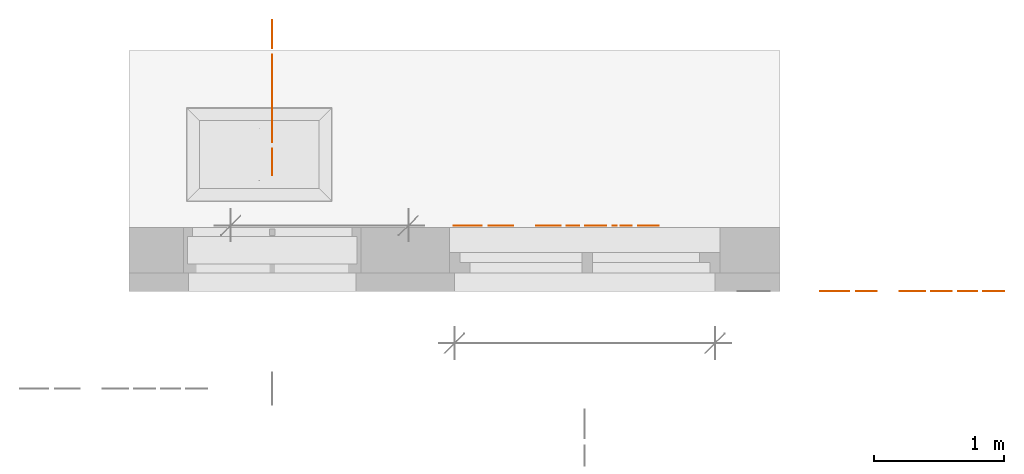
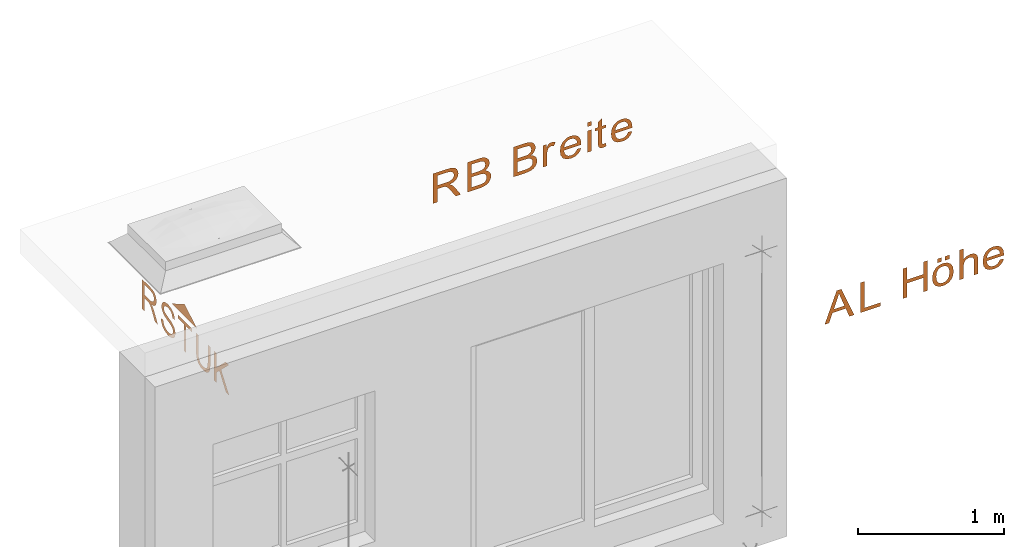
# One storey, part 5 of 5: 3 proxies, 3 elements without a shape of their own.
"""IFC4 building model written with IfcOpenShell, lengths in metres."""

from ifc_helpers import new_model, entity, si_unit, converted_unit, derived_unit, frame, origin, origin_with_axes, place, context, subcontext, project, spatial, open_shell, surface_model, source, transform, mapped, element, aggregate, save


model = new_model("IFC4")

# Units and contexts
model_context = context("Model", 3, precision=1e-05, world=origin())
body_context = subcontext(model_context, "Body", "Model", "MODEL_VIEW")
ifc_project = project(units=[si_unit("LENGTHUNIT", "METRE"), si_unit("AREAUNIT", "SQUARE_METRE"), si_unit("VOLUMEUNIT", "CUBIC_METRE"), si_unit("MASSUNIT", "GRAM", prefix="KILO"), converted_unit("PLANEANGLEUNIT", "DEGREE", entity("IfcPlaneAngleMeasure", 0.0174532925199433), si_unit("PLANEANGLEUNIT", "RADIAN"), dimensions=[0, 0, 0, 0, 0, 0, 0]), derived_unit("THERMALTRANSMITTANCEUNIT", [(si_unit("POWERUNIT", "WATT"), 1), (si_unit("THERMODYNAMICTEMPERATUREUNIT", "KELVIN"), -1), (si_unit("LENGTHUNIT", "METRE"), -2)]), derived_unit("VOLUMETRICFLOWRATEUNIT", [(si_unit("LENGTHUNIT", "METRE"), 3), (converted_unit("TIMEUNIT", "hour", entity("IfcTimeMeasure", 3600.0), si_unit("TIMEUNIT", "SECOND"), dimensions=[0, 0, 1, 0, 0, 0, 0]), -1), (si_unit("LENGTHUNIT", "METRE"), -1)])], contexts=[model_context])

# Site, building, storey
site_placement = place(None, origin())
site = spatial("IfcSite", under=ifc_project, at=site_placement, Name="Liegenschaft", CompositionType="ELEMENT")
building_placement = place(site_placement, origin())
building = spatial("IfcBuilding", under=site, at=building_placement, Name="Gebäude", CompositionType="ELEMENT")
storey_placement = place(building_placement, origin())
storey = spatial("IfcBuildingStorey", under=building, at=storey_placement, Name="Geschoss 01", CompositionType="ELEMENT", Elevation=0.0)

# Assembly, proxy
assembly_1_placement = place(storey_placement, origin())
assembly_1 = element("IfcElementAssembly", 1, at=assembly_1_placement, inside=storey, Name="SpatialDim_Group", PredefinedType="NOTDEFINED")
shared_shape_1 = source(origin_with_axes(), body_context, "Body", "SurfaceModel", [
    surface_model("IfcShellBasedSurfaceModel", [(0.397, 0.6115, 0.0), (0.297, 0.784705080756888, 0.0), (0.297, 0.438294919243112, 0.0)], [open_shell([[[0, 1, 2]]], orient=[[False]])]),
    surface_model("IfcShellBasedSurfaceModel", [(0.00399999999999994, 1.195, 0.0), (0.00399999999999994, 1.162, 0.0), (0.115, 1.162, 0.0), (0.115, 1.124, 0.0), (0.1145, 1.112625, 0.0), (0.114, 1.105, 0.0), (0.110875, 1.0975, 0.0), (0.107, 1.09, 0.0), (0.100875, 1.082375, 0.0), (0.0909999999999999, 1.074, 0.0), (0.0761249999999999, 1.06275, 0.0), (0.0559999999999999, 1.05, 0.0), (0.00399999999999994, 1.017, 0.0), (0.004, 0.976, 0.0), (0.0719999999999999, 1.019, 0.0), (0.0908749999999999, 1.0325, 0.0), (0.106, 1.046, 0.0), (0.112, 1.054875, 0.0), (0.118, 1.066, 0.0), (0.1265, 1.034625, 0.0), (0.141, 1.013, 0.0), (0.16125, 1.0, 0.0), (0.186, 0.996, 0.0), (0.206125, 0.99875, 0.0), (0.224, 1.006, 0.0), (0.2385, 1.018875, 0.0), (0.247, 1.034, 0.0), (0.252375, 1.05575, 0.0), (0.254, 1.085, 0.0), (0.254, 1.195, 0.0), (0.145, 1.071625, 0.0), (0.144, 1.091, 0.0), (0.144, 1.162, 0.0), (0.226, 1.162, 0.0), (0.226, 1.083, 0.0), (0.223125, 1.05925, 0.0), (0.215, 1.043, 0.0), (0.201625, 1.033125, 0.0), (0.186, 1.03, 0.0), (0.17425, 1.032, 0.0), (0.164, 1.037, 0.0), (0.15425, 1.045, 0.0), (0.149, 1.056, 0.0)], [open_shell([[[0, 1, 2, 3, 4, 5, 6, 7, 8, 9, 10, 11, 12, 13, 14, 15, 16, 17, 18, 19, 20, 21, 22, 23, 24, 25, 26, 27, 28, 29], [30, 31, 32, 33, 34, 35, 36, 37, 38, 39, 40, 41, 42]]], orient=[[False, False]])]),
    surface_model("IfcShellBasedSurfaceModel", [(0.0839999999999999, 0.935, 0.0), (0.0599999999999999, 0.930625, 0.0), (0.0389999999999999, 0.921, 0.0), (0.021875, 0.905375, 0.0), (0.01, 0.886, 0.0), (0.002375, 0.85975, 0.0), (0.0, 0.829, 0.0), (0.00275, 0.8035, 0.0), (0.01, 0.781, 0.0), (0.022, 0.76225, 0.0), (0.037, 0.748, 0.0), (0.055625, 0.7395, 0.0), (0.075, 0.737, 0.0), (0.094, 0.739875, 0.0), (0.11, 0.748, 0.0), (0.124, 0.761375, 0.0), (0.135, 0.78, 0.0), (0.142625, 0.8015, 0.0), (0.151, 0.835, 0.0), (0.16075, 0.867375, 0.0), (0.169, 0.884, 0.0), (0.17925, 0.891625, 0.0), (0.191, 0.894, 0.0), (0.206, 0.890375, 0.0), (0.218, 0.88, 0.0), (0.2265, 0.862625, 0.0), (0.229, 0.837, 0.0), (0.226, 0.812125, 0.0), (0.217, 0.794, 0.0), (0.202, 0.7825, 0.0), (0.181, 0.777, 0.0), (0.183, 0.745, 0.0), (0.204125, 0.74875, 0.0), (0.223, 0.757, 0.0), (0.23825, 0.77125, 0.0), (0.249, 0.79, 0.0), (0.25575, 0.8125, 0.0), (0.258, 0.838, 0.0), (0.25575, 0.862875, 0.0), (0.249, 0.884, 0.0), (0.238375, 0.9025, 0.0), (0.224, 0.915, 0.0), (0.206875, 0.9235, 0.0), (0.189, 0.926, 0.0), (0.172375, 0.92375, 0.0), (0.158, 0.917, 0.0), (0.145, 0.905875, 0.0), (0.135, 0.891, 0.0), (0.126625, 0.8715, 0.0), (0.119, 0.843, 0.0), (0.1115, 0.814625, 0.0), (0.107, 0.799, 0.0), (0.10025, 0.784875, 0.0), (0.092, 0.776, 0.0), (0.082375, 0.770625, 0.0), (0.072, 0.769, 0.0), (0.06025, 0.771, 0.0), (0.05, 0.776, 0.0), (0.041, 0.785, 0.0), (0.035, 0.797, 0.0), (0.0305, 0.81325, 0.0), (0.029, 0.831, 0.0), (0.031, 0.851125, 0.0), (0.036, 0.869, 0.0), (0.04525, 0.884125, 0.0), (0.056, 0.894, 0.0), (0.07, 0.900875, 0.0), (0.0869999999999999, 0.904, 0.0)], [open_shell([[[0, 1, 2, 3, 4, 5, 6, 7, 8, 9, 10, 11, 12, 13, 14, 15, 16, 17, 18, 19, 20, 21, 22, 23, 24, 25, 26, 27, 28, 29, 30, 31, 32, 33, 34, 35, 36, 37, 38, 39, 40, 41, 42, 43, 44, 45, 46, 47, 48, 49, 50, 51, 52, 53, 54, 55, 56, 57, 58, 59, 60, 61, 62, 63, 64, 65, 66, 67]]], orient=[[False]])]),
    surface_model("IfcShellBasedSurfaceModel", [(0.004, 0.622, 0.0), (0.004, 0.589, 0.0), (0.225, 0.589, 0.0), (0.225, 0.507, 0.0), (0.254, 0.507, 0.0), (0.254, 0.704, 0.0), (0.225, 0.704, 0.0), (0.225, 0.622, 0.0)], [open_shell([[[0, 1, 2, 3, 4, 5, 6, 7]]], orient=[[False]])]),
    surface_model("IfcShellBasedSurfaceModel", [(0.254, 0.292, 0.0), (0.111, 0.292, 0.0), (0.0711250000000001, 0.29575, 0.0), (0.0470000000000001, 0.307, 0.0), (0.0348750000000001, 0.32725, 0.0), (0.0310000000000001, 0.358, 0.0), (0.0331250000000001, 0.3775, 0.0), (0.0390000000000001, 0.394, 0.0), (0.0495000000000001, 0.40625, 0.0), (0.0630000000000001, 0.414, 0.0), (0.0825000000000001, 0.4185, 0.0), (0.111, 0.42, 0.0), (0.254, 0.42, 0.0), (0.254, 0.454, 0.0), (0.11, 0.454, 0.0), (0.0740000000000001, 0.45125, 0.0), (0.0470000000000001, 0.444, 0.0), (0.0265000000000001, 0.4315, 0.0), (0.0120000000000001, 0.413, 0.0), (0.00300000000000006, 0.386625, 0.0), (0.0, 0.355, 0.0), (0.00362500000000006, 0.32225, 0.0), (0.0140000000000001, 0.297, 0.0), (0.0305000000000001, 0.278125, 0.0), (0.0500000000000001, 0.266, 0.0), (0.0762500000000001, 0.25975, 0.0), (0.11, 0.258, 0.0), (0.254, 0.258, 0.0)], [open_shell([[[0, 1, 2, 3, 4, 5, 6, 7, 8, 9, 10, 11, 12, 13, 14, 15, 16, 17, 18, 19, 20, 21, 22, 23, 24, 25, 26, 27]]], orient=[[False]])]),
    surface_model("IfcShellBasedSurfaceModel", [(0.00400000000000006, 0.207, 0.0), (0.00400000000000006, 0.174, 0.0), (0.0910000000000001, 0.174, 0.0), (0.13, 0.134, 0.0), (0.00400000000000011, 0.044, 0.0), (0.00400000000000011, 0.0, 0.0), (0.153, 0.11, 0.0), (0.254, 0.006, 0.0), (0.254, 0.051, 0.0), (0.132, 0.174, 0.0), (0.254, 0.174, 0.0), (0.254, 0.207, 0.0)], [open_shell([[[0, 1, 2, 3, 4, 5, 6, 7, 8, 9, 10, 11]]], orient=[[False]])]),
])
proxy_1_placement = place(assembly_1_placement, frame((210.164213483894, 2.13037041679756, 2.003), z_axis=(-1.0, 0.0, 1.22464679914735e-16), x_axis=(1.22464679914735e-16, 0.0, 1.0)))
proxy_1 = element("IfcBuildingElementProxy", 2, at=proxy_1_placement, Name="RSTUK", context=body_context, shape_type="MappedRepresentation", body=[
    mapped(shared_shape_1, transform((0.0, 0.0, 0.0), x_axis=(1.0, 0.0, 0.0), y_axis=(0.0, 1.0, 0.0), z_axis=(0.0, 0.0, 1.0), scale=1.0)),
])
aggregate(assembly_1, [proxy_1])

assembly_2_placement = place(storey_placement, origin())
assembly_2 = element("IfcElementAssembly", 3, at=assembly_2_placement, inside=storey, Name="SpatialDim_Group", PredefinedType="NOTDEFINED")
shared_shape_2 = source(origin_with_axes(), body_context, "Body", "SurfaceModel", [
    surface_model("IfcShellBasedSurfaceModel", [(0.587350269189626, 1.576, 0.0), (0.587350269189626, 1.543, 0.0), (0.698350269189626, 1.543, 0.0), (0.698350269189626, 1.505, 0.0), (0.697850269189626, 1.493625, 0.0), (0.697350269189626, 1.486, 0.0), (0.694225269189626, 1.4785, 0.0), (0.690350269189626, 1.471, 0.0), (0.684225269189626, 1.463375, 0.0), (0.674350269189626, 1.455, 0.0), (0.659475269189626, 1.44375, 0.0), (0.639350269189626, 1.431, 0.0), (0.587350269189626, 1.398, 0.0), (0.587350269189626, 1.357, 0.0), (0.655350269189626, 1.4, 0.0), (0.674225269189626, 1.4135, 0.0), (0.689350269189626, 1.427, 0.0), (0.695350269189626, 1.435875, 0.0), (0.701350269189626, 1.447, 0.0), (0.709850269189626, 1.415625, 0.0), (0.724350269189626, 1.394, 0.0), (0.744600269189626, 1.381, 0.0), (0.769350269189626, 1.377, 0.0), (0.789475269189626, 1.37975, 0.0), (0.807350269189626, 1.387, 0.0), (0.821850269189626, 1.399875, 0.0), (0.830350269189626, 1.415, 0.0), (0.835725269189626, 1.43675, 0.0), (0.837350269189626, 1.466, 0.0), (0.837350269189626, 1.576, 0.0), (0.728350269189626, 1.452625, 0.0), (0.727350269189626, 1.472, 0.0), (0.727350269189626, 1.543, 0.0), (0.809350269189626, 1.543, 0.0), (0.809350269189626, 1.464, 0.0), (0.806475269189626, 1.44025, 0.0), (0.798350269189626, 1.424, 0.0), (0.784975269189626, 1.414125, 0.0), (0.769350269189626, 1.411, 0.0), (0.757600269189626, 1.413, 0.0), (0.747350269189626, 1.418, 0.0), (0.737600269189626, 1.426, 0.0), (0.732350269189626, 1.437, 0.0)], [open_shell([[[0, 1, 2, 3, 4, 5, 6, 7, 8, 9, 10, 11, 12, 13, 14, 15, 16, 17, 18, 19, 20, 21, 22, 23, 24, 25, 26, 27, 28, 29], [30, 31, 32, 33, 34, 35, 36, 37, 38, 39, 40, 41, 42]]], orient=[[False, False]])]),
    surface_model("IfcShellBasedSurfaceModel", [(0.587350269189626, 1.306, 0.0), (0.587350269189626, 1.211, 0.0), (0.588600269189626, 1.18875, 0.0), (0.591350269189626, 1.171, 0.0), (0.596600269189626, 1.156, 0.0), (0.603350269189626, 1.144, 0.0), (0.613850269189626, 1.133375, 0.0), (0.627350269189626, 1.125, 0.0), (0.642975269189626, 1.119625, 0.0), (0.659350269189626, 1.118, 0.0), (0.679725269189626, 1.121, 0.0), (0.696350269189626, 1.13, 0.0), (0.710475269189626, 1.145625, 0.0), (0.719350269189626, 1.165, 0.0), (0.729725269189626, 1.14975, 0.0), (0.742350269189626, 1.139, 0.0), (0.757475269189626, 1.13225, 0.0), (0.773350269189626, 1.13, 0.0), (0.790600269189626, 1.13275, 0.0), (0.806350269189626, 1.14, 0.0), (0.820475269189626, 1.152, 0.0), (0.829350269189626, 1.167, 0.0), (0.835600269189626, 1.187375, 0.0), (0.837350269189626, 1.213, 0.0), (0.837350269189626, 1.306, 0.0), (0.732100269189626, 1.200875, 0.0), (0.731350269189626, 1.219, 0.0), (0.731350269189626, 1.273, 0.0), (0.808350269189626, 1.273, 0.0), (0.808350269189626, 1.223, 0.0), (0.807100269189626, 1.200375, 0.0), (0.804350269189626, 1.186, 0.0), (0.799350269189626, 1.176, 0.0), (0.791350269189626, 1.169, 0.0), (0.781100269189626, 1.1645, 0.0), (0.769350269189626, 1.163, 0.0), (0.757225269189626, 1.1645, 0.0), (0.747350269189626, 1.169, 0.0), (0.739350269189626, 1.177375, 0.0), (0.734350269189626, 1.188, 0.0), (0.616475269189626, 1.19775, 0.0), (0.616350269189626, 1.211, 0.0), (0.616350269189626, 1.273, 0.0), (0.702350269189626, 1.273, 0.0), (0.702350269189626, 1.216, 0.0), (0.701100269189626, 1.1945, 0.0), (0.698350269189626, 1.179, 0.0), (0.692350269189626, 1.167875, 0.0), (0.683350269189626, 1.159, 0.0), (0.672100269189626, 1.153625, 0.0), (0.659350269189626, 1.152, 0.0), (0.648100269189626, 1.153375, 0.0), (0.638350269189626, 1.157, 0.0), (0.630225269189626, 1.163125, 0.0), (0.624350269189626, 1.17, 0.0), (0.619725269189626, 1.178375, 0.0), (0.617350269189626, 1.189, 0.0)], [open_shell([[[0, 1, 2, 3, 4, 5, 6, 7, 8, 9, 10, 11, 12, 13, 14, 15, 16, 17, 18, 19, 20, 21, 22, 23, 24], [25, 26, 27, 28, 29, 30, 31, 32, 33, 34, 35, 36, 37, 38, 39], [40, 41, 42, 43, 44, 45, 46, 47, 48, 49, 50, 51, 52, 53, 54, 55, 56]]], orient=[[False, False, False]])]),
    surface_model("IfcShellBasedSurfaceModel", [(0.587350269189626, 0.942, 0.0), (0.587350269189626, 0.847, 0.0), (0.588600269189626, 0.82475, 0.0), (0.591350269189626, 0.807, 0.0), (0.596600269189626, 0.792, 0.0), (0.603350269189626, 0.78, 0.0), (0.613850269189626, 0.769375, 0.0), (0.627350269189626, 0.761, 0.0), (0.642975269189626, 0.755625, 0.0), (0.659350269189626, 0.754, 0.0), (0.679725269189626, 0.757, 0.0), (0.696350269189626, 0.766, 0.0), (0.710475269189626, 0.781625, 0.0), (0.719350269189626, 0.801, 0.0), (0.729725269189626, 0.78575, 0.0), (0.742350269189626, 0.775, 0.0), (0.757475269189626, 0.76825, 0.0), (0.773350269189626, 0.766, 0.0), (0.790600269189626, 0.76875, 0.0), (0.806350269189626, 0.776, 0.0), (0.820475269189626, 0.788, 0.0), (0.829350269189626, 0.803, 0.0), (0.835600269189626, 0.823375, 0.0), (0.837350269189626, 0.849, 0.0), (0.837350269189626, 0.942, 0.0), (0.732100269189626, 0.836875, 0.0), (0.731350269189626, 0.855, 0.0), (0.731350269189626, 0.909, 0.0), (0.808350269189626, 0.909, 0.0), (0.808350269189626, 0.859, 0.0), (0.807100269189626, 0.836375, 0.0), (0.804350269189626, 0.822, 0.0), (0.799350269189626, 0.812, 0.0), (0.791350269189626, 0.805, 0.0), (0.781100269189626, 0.8005, 0.0), (0.769350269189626, 0.799, 0.0), (0.757225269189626, 0.8005, 0.0), (0.747350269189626, 0.805, 0.0), (0.739350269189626, 0.813375, 0.0), (0.734350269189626, 0.824, 0.0), (0.616475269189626, 0.83375, 0.0), (0.616350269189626, 0.847, 0.0), (0.616350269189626, 0.909, 0.0), (0.702350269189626, 0.909, 0.0), (0.702350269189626, 0.852, 0.0), (0.701100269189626, 0.8305, 0.0), (0.698350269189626, 0.815, 0.0), (0.692350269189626, 0.803875, 0.0), (0.683350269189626, 0.795, 0.0), (0.672100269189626, 0.789625, 0.0), (0.659350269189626, 0.788, 0.0), (0.648100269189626, 0.789375, 0.0), (0.638350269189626, 0.793, 0.0), (0.630225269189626, 0.799125, 0.0), (0.624350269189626, 0.806, 0.0), (0.619725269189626, 0.814375, 0.0), (0.617350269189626, 0.825, 0.0)], [open_shell([[[0, 1, 2, 3, 4, 5, 6, 7, 8, 9, 10, 11, 12, 13, 14, 15, 16, 17, 18, 19, 20, 21, 22, 23, 24], [25, 26, 27, 28, 29, 30, 31, 32, 33, 34, 35, 36, 37, 38, 39], [40, 41, 42, 43, 44, 45, 46, 47, 48, 49, 50, 51, 52, 53, 54, 55, 56]]], orient=[[False, False, False]])]),
    surface_model("IfcShellBasedSurfaceModel", [(0.587350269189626, 0.706, 0.0), (0.587350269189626, 0.675, 0.0), (0.682350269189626, 0.675, 0.0), (0.700975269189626, 0.673625, 0.0), (0.717350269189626, 0.67, 0.0), (0.727350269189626, 0.665625, 0.0), (0.734350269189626, 0.659, 0.0), (0.738850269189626, 0.65, 0.0), (0.740350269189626, 0.641, 0.0), (0.738850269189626, 0.62975, 0.0), (0.734350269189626, 0.62, 0.0), (0.762350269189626, 0.609, 0.0), (0.769975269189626, 0.624875, 0.0), (0.772350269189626, 0.64, 0.0), (0.770850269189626, 0.65075, 0.0), (0.766350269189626, 0.66, 0.0), (0.756725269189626, 0.6695, 0.0), (0.740350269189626, 0.679, 0.0), (0.768350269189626, 0.679, 0.0), (0.768350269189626, 0.706, 0.0)], [open_shell([[[0, 1, 2, 3, 4, 5, 6, 7, 8, 9, 10, 11, 12, 13, 14, 15, 16, 17, 18, 19]]], orient=[[False]])]),
    surface_model("IfcShellBasedSurfaceModel", [(0.645350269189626, 0.436, 0.0), (0.628725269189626, 0.444875, 0.0), (0.617350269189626, 0.456, 0.0), (0.610600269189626, 0.469375, 0.0), (0.608350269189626, 0.485, 0.0), (0.612600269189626, 0.50675, 0.0), (0.624350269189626, 0.524, 0.0), (0.643975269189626, 0.535875, 0.0), (0.670350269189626, 0.541, 0.0), (0.670350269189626, 0.404, 0.0), (0.675100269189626, 0.404, 0.0), (0.678350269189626, 0.404, 0.0), (0.718100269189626, 0.409875, 0.0), (0.747350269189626, 0.427, 0.0), (0.766225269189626, 0.454, 0.0), (0.772350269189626, 0.487, 0.0), (0.765850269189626, 0.521625, 0.0), (0.747350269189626, 0.548, 0.0), (0.716725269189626, 0.566, 0.0), (0.676350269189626, 0.572, 0.0), (0.636600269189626, 0.566125, 0.0), (0.607350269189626, 0.549, 0.0), (0.589350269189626, 0.52075, 0.0), (0.583350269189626, 0.485, 0.0), (0.587100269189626, 0.455625, 0.0), (0.598350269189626, 0.433, 0.0), (0.616850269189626, 0.415625, 0.0), (0.641350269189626, 0.405, 0.0), (0.714975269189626, 0.43975, 0.0), (0.695350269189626, 0.436, 0.0), (0.695350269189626, 0.54, 0.0), (0.716975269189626, 0.534625, 0.0), (0.733350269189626, 0.524, 0.0), (0.744100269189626, 0.507, 0.0), (0.747350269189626, 0.487, 0.0), (0.742850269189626, 0.46525, 0.0), (0.729350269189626, 0.448, 0.0)], [open_shell([[[0, 1, 2, 3, 4, 5, 6, 7, 8, 9, 10, 11, 12, 13, 14, 15, 16, 17, 18, 19, 20, 21, 22, 23, 24, 25, 26, 27], [28, 29, 30, 31, 32, 33, 34, 35, 36]]], orient=[[False, False]])]),
    surface_model("IfcShellBasedSurfaceModel", [(0.587350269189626, 0.355, 0.0), (0.587350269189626, 0.324, 0.0), (0.768350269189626, 0.324, 0.0), (0.768350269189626, 0.355, 0.0), (0.803350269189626, 0.355, 0.0), (0.803350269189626, 0.324, 0.0), (0.837350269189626, 0.324, 0.0), (0.837350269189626, 0.355, 0.0)], [open_shell([[[0, 1, 2, 3]], [[4, 5, 6, 7]]], orient=[[False], [False]])]),
    surface_model("IfcShellBasedSurfaceModel", [(0.615350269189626, 0.209, 0.0), (0.614475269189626, 0.21675, 0.0), (0.614350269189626, 0.223, 0.0), (0.614975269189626, 0.22875, 0.0), (0.616350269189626, 0.233, 0.0), (0.619350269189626, 0.236625, 0.0), (0.622350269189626, 0.238, 0.0), (0.628975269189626, 0.23975, 0.0), (0.639350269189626, 0.24, 0.0), (0.744350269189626, 0.24, 0.0), (0.744350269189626, 0.209, 0.0), (0.768350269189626, 0.209, 0.0), (0.768350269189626, 0.24, 0.0), (0.831350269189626, 0.24, 0.0), (0.813350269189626, 0.271, 0.0), (0.768350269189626, 0.271, 0.0), (0.768350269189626, 0.294, 0.0), (0.744350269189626, 0.294, 0.0), (0.744350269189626, 0.271, 0.0), (0.640350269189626, 0.271, 0.0), (0.617850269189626, 0.26975, 0.0), (0.604350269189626, 0.267, 0.0), (0.596600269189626, 0.261625, 0.0), (0.590350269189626, 0.254, 0.0), (0.586350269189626, 0.242875, 0.0), (0.585350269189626, 0.228, 0.0), (0.586100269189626, 0.216875, 0.0), (0.588350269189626, 0.205, 0.0)], [open_shell([[[0, 1, 2, 3, 4, 5, 6, 7, 8, 9, 10, 11, 12, 13, 14, 15, 16, 17, 18, 19, 20, 21, 22, 23, 24, 25, 26, 27]]], orient=[[False]])]),
    surface_model("IfcShellBasedSurfaceModel", [(0.645350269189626, 0.032, 0.0), (0.628725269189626, 0.040875, 0.0), (0.617350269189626, 0.052, 0.0), (0.610600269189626, 0.065375, 0.0), (0.608350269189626, 0.081, 0.0), (0.612600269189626, 0.10275, 0.0), (0.624350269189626, 0.12, 0.0), (0.643975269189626, 0.131875, 0.0), (0.670350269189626, 0.137, 0.0), (0.670350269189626, 0.0, 0.0), (0.675100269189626, 0.0, 0.0), (0.678350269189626, 0.0, 0.0), (0.718100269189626, 0.005875, 0.0), (0.747350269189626, 0.023, 0.0), (0.766225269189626, 0.05, 0.0), (0.772350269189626, 0.083, 0.0), (0.765850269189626, 0.117625, 0.0), (0.747350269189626, 0.144, 0.0), (0.716725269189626, 0.162, 0.0), (0.676350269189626, 0.168, 0.0), (0.636600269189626, 0.162125, 0.0), (0.607350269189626, 0.145, 0.0), (0.589350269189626, 0.11675, 0.0), (0.583350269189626, 0.081, 0.0), (0.587100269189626, 0.051625, 0.0), (0.598350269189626, 0.029, 0.0), (0.616850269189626, 0.011625, 0.0), (0.641350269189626, 0.001, 0.0), (0.714975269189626, 0.03575, 0.0), (0.695350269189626, 0.032, 0.0), (0.695350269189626, 0.136, 0.0), (0.716975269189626, 0.130625, 0.0), (0.733350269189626, 0.12, 0.0), (0.744100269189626, 0.103, 0.0), (0.747350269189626, 0.083, 0.0), (0.742850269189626, 0.06125, 0.0), (0.729350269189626, 0.044, 0.0)], [open_shell([[[0, 1, 2, 3, 4, 5, 6, 7, 8, 9, 10, 11, 12, 13, 14, 15, 16, 17, 18, 19, 20, 21, 22, 23, 24, 25, 26, 27], [28, 29, 30, 31, 32, 33, 34, 35, 36]]], orient=[[False, False]])]),
])
proxy_2_placement = place(assembly_2_placement, frame((213.133162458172, 1.74681939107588, 2.76989794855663), z_axis=(-1.22464679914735e-16, -1.0, 1.49975978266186e-32), x_axis=(1.22464679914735e-16, 0.0, 1.0)))
proxy_2 = element("IfcBuildingElementProxy", 4, at=proxy_2_placement, Name="macro", context=body_context, shape_type="MappedRepresentation", body=[
    mapped(shared_shape_2, transform((0.0, 0.0, 0.0), x_axis=(1.0, 0.0, 0.0), y_axis=(0.0, 1.0, 0.0), z_axis=(0.0, 0.0, 1.0), scale=1.0)),
])
aggregate(assembly_2, [proxy_2])

assembly_3_placement = place(storey_placement, origin())
assembly_3 = element("IfcElementAssembly", 5, at=assembly_3_placement, inside=storey, Name="SpatialDim_Group", PredefinedType="NOTDEFINED")
shared_shape_3 = source(origin_with_axes(), body_context, "Body", "SurfaceModel", [
    surface_model("IfcShellBasedSurfaceModel", [(0.298675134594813, 1.419, 0.0), (0.298675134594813, 1.384, 0.0), (0.374675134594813, 1.357, 0.0), (0.374675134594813, 1.252, 0.0), (0.298675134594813, 1.224, 0.0), (0.298675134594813, 1.186, 0.0), (0.548675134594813, 1.287, 0.0), (0.548675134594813, 1.324, 0.0), (0.470675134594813, 1.288, 0.0), (0.401675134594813, 1.263, 0.0), (0.401675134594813, 1.347, 0.0), (0.474675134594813, 1.32, 0.0), (0.498675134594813, 1.31225, 0.0), (0.522675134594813, 1.306, 0.0), (0.499300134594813, 1.2985, 0.0)], [open_shell([[[0, 1, 2, 3, 4, 5, 6, 7], [8, 9, 10, 11, 12, 13, 14]]], orient=[[False, False]])]),
    surface_model("IfcShellBasedSurfaceModel", [(0.298675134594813, 1.135, 0.0), (0.298675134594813, 0.979, 0.0), (0.327675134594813, 0.979, 0.0), (0.327675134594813, 1.102, 0.0), (0.548675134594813, 1.102, 0.0), (0.548675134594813, 1.135, 0.0)], [open_shell([[[0, 1, 2, 3, 4, 5]]], orient=[[False]])]),
    surface_model("IfcShellBasedSurfaceModel", [(0.298675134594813, 0.801, 0.0), (0.298675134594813, 0.768, 0.0), (0.416675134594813, 0.768, 0.0), (0.416675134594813, 0.638, 0.0), (0.298675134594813, 0.638, 0.0), (0.298675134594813, 0.605, 0.0), (0.548675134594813, 0.605, 0.0), (0.548675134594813, 0.638, 0.0), (0.445675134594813, 0.638, 0.0), (0.445675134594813, 0.768, 0.0), (0.548675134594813, 0.768, 0.0), (0.548675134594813, 0.801, 0.0)], [open_shell([[[0, 1, 2, 3, 4, 5, 6, 7, 8, 9, 10, 11]]], orient=[[False]])]),
    surface_model("IfcShellBasedSurfaceModel", [(0.501675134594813, 0.465, 0.0), (0.501675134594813, 0.433, 0.0), (0.535675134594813, 0.433, 0.0), (0.535675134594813, 0.465, 0.0), (0.501675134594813, 0.527, 0.0), (0.501675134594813, 0.495, 0.0), (0.535675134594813, 0.495, 0.0), (0.535675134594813, 0.527, 0.0), (0.348550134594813, 0.562125, 0.0), (0.318675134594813, 0.545, 0.0), (0.300675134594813, 0.517875, 0.0), (0.294675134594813, 0.484, 0.0), (0.297550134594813, 0.461, 0.0), (0.305675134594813, 0.441, 0.0), (0.319300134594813, 0.422875, 0.0), (0.336675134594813, 0.41, 0.0), (0.360800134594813, 0.402375, 0.0), (0.391675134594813, 0.4, 0.0), (0.430550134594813, 0.405875, 0.0), (0.459675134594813, 0.423, 0.0), (0.477675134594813, 0.4505, 0.0), (0.483675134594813, 0.484, 0.0), (0.478550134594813, 0.514625, 0.0), (0.463675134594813, 0.54, 0.0), (0.433050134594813, 0.561125, 0.0), (0.389675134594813, 0.568, 0.0), (0.359050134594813, 0.53325, 0.0), (0.389675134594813, 0.537, 0.0), (0.419800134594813, 0.53325, 0.0), (0.441675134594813, 0.522, 0.0), (0.454675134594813, 0.504875, 0.0), (0.458675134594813, 0.484, 0.0), (0.454300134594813, 0.46275, 0.0), (0.441675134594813, 0.446, 0.0), (0.419925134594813, 0.43475, 0.0), (0.390675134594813, 0.431, 0.0), (0.359175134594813, 0.43475, 0.0), (0.336675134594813, 0.446, 0.0), (0.323675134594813, 0.463125, 0.0), (0.319675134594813, 0.484, 0.0), (0.324050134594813, 0.50525, 0.0), (0.336675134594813, 0.522, 0.0)], [open_shell([[[0, 1, 2, 3]], [[4, 5, 6, 7]], [[8, 9, 10, 11, 12, 13, 14, 15, 16, 17, 18, 19, 20, 21, 22, 23, 24, 25], [26, 27, 28, 29, 30, 31, 32, 33, 34, 35, 36, 37, 38, 39, 40, 41]]], orient=[[False], [False], [False, False]])]),
    surface_model("IfcShellBasedSurfaceModel", [(0.298675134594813, 0.351, 0.0), (0.298675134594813, 0.32, 0.0), (0.397675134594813, 0.32, 0.0), (0.417300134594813, 0.318625, 0.0), (0.431675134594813, 0.315, 0.0), (0.442675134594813, 0.308, 0.0), (0.450675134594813, 0.298, 0.0), (0.456050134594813, 0.285875, 0.0), (0.457675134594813, 0.273, 0.0), (0.454925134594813, 0.25725, 0.0), (0.447675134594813, 0.246, 0.0), (0.433300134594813, 0.238375, 0.0), (0.413675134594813, 0.236, 0.0), (0.298675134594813, 0.236, 0.0), (0.298675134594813, 0.205, 0.0), (0.413675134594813, 0.205, 0.0), (0.437050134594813, 0.2065, 0.0), (0.453675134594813, 0.211, 0.0), (0.466550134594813, 0.22, 0.0), (0.475675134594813, 0.232, 0.0), (0.481925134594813, 0.248375, 0.0), (0.483675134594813, 0.267, 0.0), (0.477675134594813, 0.2965, 0.0), (0.459675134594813, 0.32, 0.0), (0.548675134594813, 0.32, 0.0), (0.548675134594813, 0.351, 0.0)], [open_shell([[[0, 1, 2, 3, 4, 5, 6, 7, 8, 9, 10, 11, 12, 13, 14, 15, 16, 17, 18, 19, 20, 21, 22, 23, 24, 25]]], orient=[[False]])]),
    surface_model("IfcShellBasedSurfaceModel", [(0.356675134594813, 0.032, 0.0), (0.340050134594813, 0.040875, 0.0), (0.328675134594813, 0.052, 0.0), (0.321925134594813, 0.065375, 0.0), (0.319675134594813, 0.081, 0.0), (0.323925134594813, 0.10275, 0.0), (0.335675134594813, 0.12, 0.0), (0.355300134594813, 0.131875, 0.0), (0.381675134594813, 0.137, 0.0), (0.381675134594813, 0.0, 0.0), (0.386425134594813, 0.0, 0.0), (0.389675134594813, 0.0, 0.0), (0.429425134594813, 0.005875, 0.0), (0.458675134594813, 0.023, 0.0), (0.477550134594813, 0.05, 0.0), (0.483675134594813, 0.083, 0.0), (0.477175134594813, 0.117625, 0.0), (0.458675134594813, 0.144, 0.0), (0.428050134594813, 0.162, 0.0), (0.387675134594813, 0.168, 0.0), (0.347925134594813, 0.162125, 0.0), (0.318675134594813, 0.145, 0.0), (0.300675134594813, 0.11675, 0.0), (0.294675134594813, 0.081, 0.0), (0.298425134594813, 0.051625, 0.0), (0.309675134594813, 0.029, 0.0), (0.328175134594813, 0.011625, 0.0), (0.352675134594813, 0.001, 0.0), (0.426300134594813, 0.03575, 0.0), (0.406675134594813, 0.032, 0.0), (0.406675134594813, 0.136, 0.0), (0.428300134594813, 0.130625, 0.0), (0.444675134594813, 0.12, 0.0), (0.455425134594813, 0.103, 0.0), (0.458675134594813, 0.083, 0.0), (0.454175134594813, 0.06125, 0.0), (0.440675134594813, 0.044, 0.0)], [open_shell([[[0, 1, 2, 3, 4, 5, 6, 7, 8, 9, 10, 11, 12, 13, 14, 15, 16, 17, 18, 19, 20, 21, 22, 23, 24, 25, 26, 27], [28, 29, 30, 31, 32, 33, 34, 35, 36]]], orient=[[False, False]])]),
])
proxy_3_placement = place(assembly_3_placement, frame((215.783213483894, 1.24187041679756, 1.37), z_axis=(-1.22464679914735e-16, -1.0, 1.49975978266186e-32), x_axis=(1.22464679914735e-16, 0.0, 1.0)))
proxy_3 = element("IfcBuildingElementProxy", 6, at=proxy_3_placement, Name="macro", context=body_context, shape_type="MappedRepresentation", body=[
    mapped(shared_shape_3, transform((0.0, 0.0, 0.0), x_axis=(1.0, 0.0, 0.0), y_axis=(0.0, 1.0, 0.0), z_axis=(0.0, 0.0, 1.0), scale=1.0)),
])
aggregate(assembly_3, [proxy_3])

save(model, "model.ifc")
